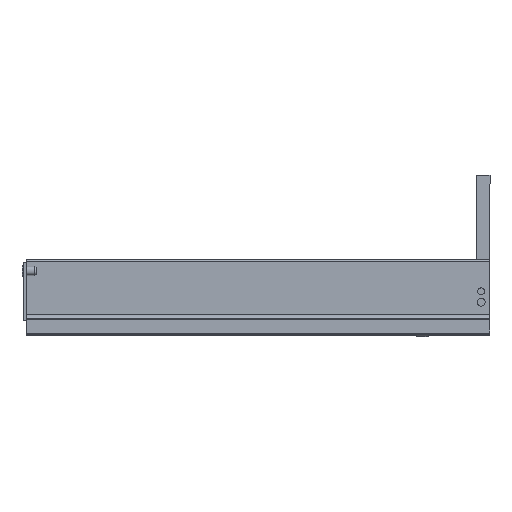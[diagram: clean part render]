
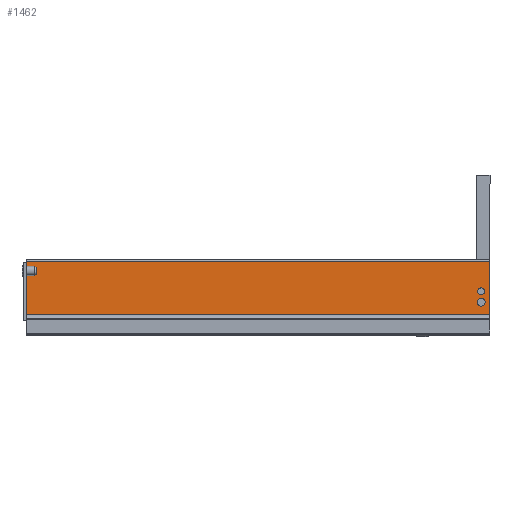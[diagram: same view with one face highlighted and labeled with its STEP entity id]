
A CAD part, left-side view. The second image highlights one B-rep face of the part: STEP entity #1462.
In plain terms, the highlighted planar face has unit normal (-1, 0, 0).
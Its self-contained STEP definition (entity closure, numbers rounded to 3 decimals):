
#55 = VECTOR ( 'NONE', #1908, 1000. ) ;
#56 = LINE ( 'NONE', #1907, #55 ) ;
#221 = ORIENTED_EDGE ( 'NONE', *, *, #1201, .T. ) ;
#222 = ORIENTED_EDGE ( 'NONE', *, *, #1226, .T. ) ;
#223 = ORIENTED_EDGE ( 'NONE', *, *, #1067, .T. ) ;
#224 = ORIENTED_EDGE ( 'NONE', *, *, #1064, .T. ) ;
#225 = ORIENTED_EDGE ( 'NONE', *, *, #1232, .F. ) ;
#226 = ORIENTED_EDGE ( 'NONE', *, *, #977, .T. ) ;
#228 = ORIENTED_EDGE ( 'NONE', *, *, #1043, .T. ) ;
#229 = ORIENTED_EDGE ( 'NONE', *, *, #1000, .F. ) ;
#256 = VECTOR ( 'NONE', #1780, 1000. ) ;
#260 = LINE ( 'NONE', #1774, #256 ) ;
#335 = VERTEX_POINT ( 'NONE', #365 ) ;
#365 = CARTESIAN_POINT ( 'NONE',  ( -21.5, 0., 68. ) ) ;
#377 = VERTEX_POINT ( 'NONE', #2774 ) ;
#389 = VERTEX_POINT ( 'NONE', #2828 ) ;
#394 = VERTEX_POINT ( 'NONE', #2850 ) ;
#438 = FACE_BOUND ( 'NONE', #2949, .T. ) ;
#444 = FACE_OUTER_BOUND ( 'NONE', #1289, .T. ) ;
#457 = FACE_BOUND ( 'NONE', #2947, .T. ) ;
#606 = LINE ( 'NONE', #1693, #823 ) ;
#612 = VECTOR ( 'NONE', #1948, 1000. ) ;
#613 = LINE ( 'NONE', #1949, #612 ) ;
#615 = CIRCLE ( 'NONE', #1020, 4.6 ) ;
#648 = CIRCLE ( 'NONE', #1151, 4.6 ) ;
#804 = CIRCLE ( 'NONE', #867, 4.1 ) ;
#809 = CIRCLE ( 'NONE', #948, 4.1 ) ;
#823 = VECTOR ( 'NONE', #1698, 1000. ) ;
#867 = AXIS2_PLACEMENT_3D ( 'NONE', #2214, #2381, #2385 ) ;
#948 = AXIS2_PLACEMENT_3D ( 'NONE', #2217, #1764, #1763 ) ;
#977 = EDGE_CURVE ( 'NONE', #377, #2677, #56, .T. ) ;
#1000 = EDGE_CURVE ( 'NONE', #389, #335, #260, .T. ) ;
#1020 = AXIS2_PLACEMENT_3D ( 'NONE', #1945, #1950, #2100 ) ;
#1043 = EDGE_CURVE ( 'NONE', #389, #377, #606, .T. ) ;
#1064 = EDGE_CURVE ( 'NONE', #394, #2836, #809, .T. ) ;
#1067 = EDGE_CURVE ( 'NONE', #2836, #394, #804, .T. ) ;
#1151 = AXIS2_PLACEMENT_3D ( 'NONE', #2362, #1750, #1735 ) ;
#1171 = AXIS2_PLACEMENT_3D ( 'NONE', #2527, #2504, #2497 ) ;
#1201 = EDGE_CURVE ( 'NONE', #2761, #2864, #648, .T. ) ;
#1226 = EDGE_CURVE ( 'NONE', #2864, #2761, #615, .T. ) ;
#1232 = EDGE_CURVE ( 'NONE', #335, #2677, #613, .T. ) ;
#1289 = EDGE_LOOP ( 'NONE', ( #229, #228, #226, #225 ) ) ;
#1462 = ADVANCED_FACE ( 'NONE', ( #444, #457, #438 ), #2492, .T. ) ;
#1693 = CARTESIAN_POINT ( 'NONE',  ( -21.5, 547., 5.395 ) ) ;
#1698 = DIRECTION ( 'NONE',  ( 0., 0., -1. ) ) ;
#1735 = DIRECTION ( 'NONE',  ( 0., 0., -1. ) ) ;
#1750 = DIRECTION ( 'NONE',  ( 1., 0., 0. ) ) ;
#1763 = DIRECTION ( 'NONE',  ( 0., 0., -1. ) ) ;
#1764 = DIRECTION ( 'NONE',  ( 1., 0., 0. ) ) ;
#1774 = CARTESIAN_POINT ( 'NONE',  ( -21.5, 547., 68. ) ) ;
#1780 = DIRECTION ( 'NONE',  ( 0., -1., 0. ) ) ;
#1907 = CARTESIAN_POINT ( 'NONE',  ( -21.5, 547., 5.395 ) ) ;
#1908 = DIRECTION ( 'NONE',  ( 0., -1., 0. ) ) ;
#1945 = CARTESIAN_POINT ( 'NONE',  ( -21.5, 10.4, 20. ) ) ;
#1948 = DIRECTION ( 'NONE',  ( 0., 0., -1. ) ) ;
#1949 = CARTESIAN_POINT ( 'NONE',  ( -21.5, 0., 68. ) ) ;
#1950 = DIRECTION ( 'NONE',  ( 1., 0., 0. ) ) ;
#2100 = DIRECTION ( 'NONE',  ( 0., 0., -1. ) ) ;
#2214 = CARTESIAN_POINT ( 'NONE',  ( -21.5, 10.4, 33. ) ) ;
#2217 = CARTESIAN_POINT ( 'NONE',  ( -21.5, 10.4, 33. ) ) ;
#2362 = CARTESIAN_POINT ( 'NONE',  ( -21.5, 10.4, 20. ) ) ;
#2381 = DIRECTION ( 'NONE',  ( 1., 0., 0. ) ) ;
#2385 = DIRECTION ( 'NONE',  ( 0., 0., -1. ) ) ;
#2492 = PLANE ( 'NONE',  #1171 ) ;
#2497 = DIRECTION ( 'NONE',  ( 0., 0., -1. ) ) ;
#2504 = DIRECTION ( 'NONE',  ( -1., 0., 0. ) ) ;
#2509 = CARTESIAN_POINT ( 'NONE',  ( -21.5, 10.4, 24.6 ) ) ;
#2527 = CARTESIAN_POINT ( 'NONE',  ( -21.5, 547., 68. ) ) ;
#2568 = CARTESIAN_POINT ( 'NONE',  ( -21.5, 0., 5.395 ) ) ;
#2643 = CARTESIAN_POINT ( 'NONE',  ( -21.5, 10.4, 15.4 ) ) ;
#2660 = CARTESIAN_POINT ( 'NONE',  ( -21.5, 10.4, 37.1 ) ) ;
#2677 = VERTEX_POINT ( 'NONE', #2568 ) ;
#2761 = VERTEX_POINT ( 'NONE', #2509 ) ;
#2774 = CARTESIAN_POINT ( 'NONE',  ( -21.5, 547., 5.395 ) ) ;
#2828 = CARTESIAN_POINT ( 'NONE',  ( -21.5, 547., 68. ) ) ;
#2836 = VERTEX_POINT ( 'NONE', #2660 ) ;
#2850 = CARTESIAN_POINT ( 'NONE',  ( -21.5, 10.4, 28.9 ) ) ;
#2864 = VERTEX_POINT ( 'NONE', #2643 ) ;
#2947 = EDGE_LOOP ( 'NONE', ( #224, #223 ) ) ;
#2949 = EDGE_LOOP ( 'NONE', ( #222, #221 ) ) ;
